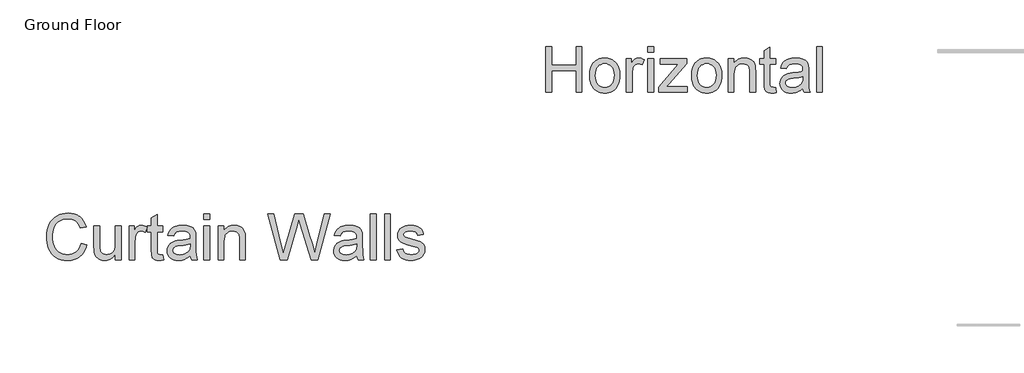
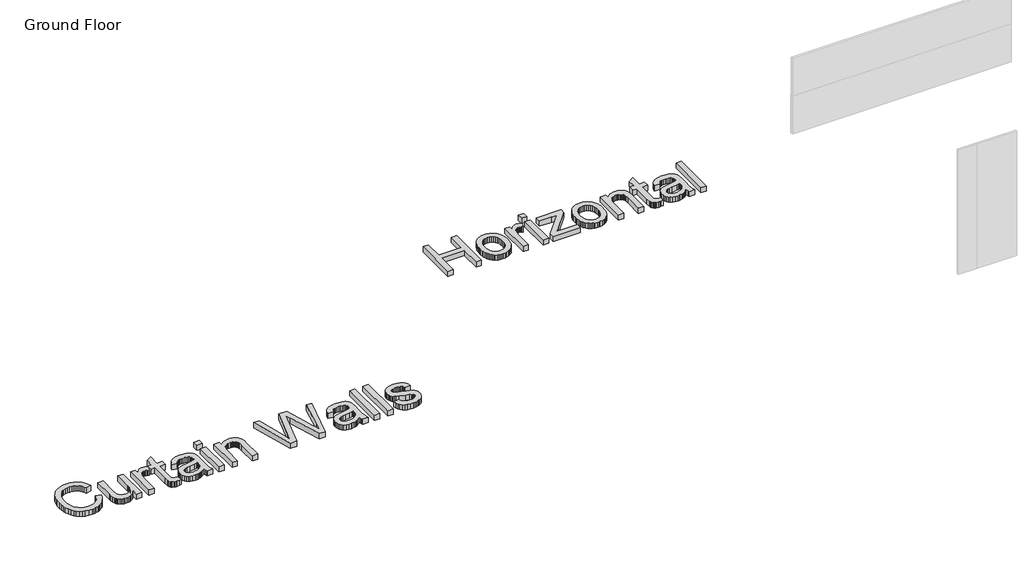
# One storey, part 5 of 8: 2 proxies.
"""IFC4 building model written with IfcOpenShell, lengths in millimetres."""

from ifc_helpers import new_model, si_unit, origin, origin_with_axes, place, context, project, spatial, polyline, outline, extrude, element, save

model = new_model("IFC4")

# Units and contexts
model_context = context("Model", 3, world=origin())
ifc_project = project(units=[si_unit("LENGTHUNIT", "METRE", prefix="MILLI")], contexts=[model_context])

# Site, building, storey
site = spatial("IfcSite", under=ifc_project)
building = spatial("IfcBuilding", under=site)
storey = spatial("IfcBuildingStorey", under=building, Name="Ground Floor", Elevation=0.0)

# Proxies
placement = place(None, origin())
element("IfcBuildingElementProxy", 1, Name="1200mm Arial", ObjectType="1200mm Arial", at=placement, inside=storey, context=model_context, shape_type="SweptSolid", body=[
    extrude(outline(polyline([(-73405.7068137, -17.5087086), (-73258.7977228, -55.3837086), (-73287.8675026, -146.7445929), (-73306.0204234, -188.1008828), (-73326.5853648, -226.5744047), (-73349.5623268, -262.1651584), (-73374.9513094, -294.873144), (-73402.7523126, -324.6983615), (-73432.9653364, -351.6408109), (-73465.2630992, -375.5480597), (-73499.3183194, -396.2676753), (-73535.1309969, -413.7996577), (-73572.7011319, -428.1440069), (-73612.0287242, -439.300723), (-73653.1137739, -447.2698059), (-73695.956281, -452.0512557), (-73740.5562455, -453.6450723), (-73830.1417391, -448.8210311), (-73910.9578791, -434.3489075), (-73983.0046653, -410.2287015), (-74046.2820978, -376.4604132), (-74101.6599387, -333.5461731), (-74150.0079501, -281.988112), (-74191.3261319, -221.7862299), (-74225.6144842, -152.9405268), (-74252.541242, -78.4279203), (-74271.7746404, -1.225328), (-74283.3146795, 78.6672502), (-74287.1613592, 161.2498141), (-74282.8125488, 249.8579462), (-74269.7661177, 332.6198425), (-74248.0220658, 409.535503), (-74217.5803933, 480.6049277), (-74179.122563, 544.6534895), (-74133.3300381, 600.5065612), (-74080.2028187, 648.1641429), (-74019.7409046, 687.6262345), (-73953.9976518, 718.5700378), (-73885.026416, 740.6727544), (-73812.8271972, 753.9343844), (-73737.3999955, 758.3549277), (-73653.3738059, 752.6342246), (-73576.3236461, 735.4721152), (-73540.4145774, 722.6005332), (-73506.2495161, 706.8685996), (-73473.8284623, 688.2763144), (-73443.151416, 666.8236777), (-73414.4784091, 642.7752047), (-73388.0694735, 616.3954107), (-73363.9246093, 587.6842956), (-73342.0438166, 556.6418595), (-73305.0744451, 487.5630243), (-73277.1613592, 409.158905), (-73424.0704501, 374.1532232), (-73447.2043279, 431.9251514), (-73475.0008478, 481.2863908), (-73507.4600097, 522.2369412), (-73544.5818137, 554.7768027), (-73586.5814586, 579.5695051), (-73633.6741433, 597.2785783), (-73685.8598677, 607.9040222), (-73743.1386319, 611.4458368), (-73809.0432839, 607.5184576), (-73869.3168989, 595.7363198), (-73923.9594771, 576.0994235), (-73972.9710183, 548.6077686), (-74015.7328258, 514.4987487), (-74051.6262029, 475.0097573), (-74080.6511496, 430.1407942), (-74102.807666, 379.8918595), (-74119.1896795, 326.5404746), (-74130.8911177, 272.3641607), (-74137.9119806, 217.3629178), (-74140.2522683, 161.5367459), (-74137.4815829, 91.3819164), (-74129.1695268, 25.8179959), (-74115.3160999, -35.1550155), (-74095.9213023, -91.5371177), (-74070.6713023, -142.2074835), (-74039.2522683, -186.0452853), (-74001.6642001, -223.0505233), (-73957.9070978, -253.2231973), (-73910.1060502, -276.6350403), (-73860.3861461, -293.3577853), (-73808.7473854, -303.3914324), (-73755.1897683, -306.7359814), (-73691.3205389, -302.1809388), (-73632.5622825, -288.5158109), (-73578.9149991, -265.7405978), (-73530.3786887, -233.8552995), (-73488.1010786, -193.0033819), (-73453.2298961, -143.3283109), (-73425.7651411, -84.8300865), (-73405.7068137, -17.5087086)])), origin_with_axes(), (0.0, 0.0, 1.0), 150.0),
    extrude(outline(polyline([(-72524.2522683, -435.2814359), (-72524.2522683, -286.9376859), (-72549.7354004, -326.0097296), (-72577.4063876, -359.8721674), (-72607.2652299, -388.5249995), (-72639.3119273, -411.9682257), (-72673.5464799, -430.2018461), (-72709.9688876, -443.2258606), (-72748.5791504, -451.0402694), (-72789.3772683, -453.6450723), (-72825.7727761, -451.8158819), (-72860.9308904, -446.3283109), (-72894.8516113, -437.1823592), (-72927.5349387, -424.3780268), (-72957.5372469, -408.8119757), (-72983.4149103, -391.3808677), (-73005.1679288, -372.084703), (-73022.7963023, -350.9234814), (-73037.2056596, -327.5923379), (-73049.3016291, -301.7864075), (-73066.5534046, -242.7501859), (-73073.0093705, -187.0854132), (-73075.1613592, -106.1706405), (-73075.1613592, 427.8094732), (-72928.2522683, 427.8094732), (-72928.2522683, -37.0200723), (-72926.0285467, -129.9859814), (-72919.3573819, -186.7984814), (-72910.5611283, -213.2769082), (-72897.945095, -236.7604842), (-72881.5092817, -257.2492093), (-72861.2536887, -274.7430836), (-72837.788046, -288.7399764), (-72811.7220836, -298.7377569), (-72783.0558016, -304.7364253), (-72751.7892001, -306.7359814), (-72719.5900701, -304.6915922), (-72688.4131347, -298.5584245), (-72658.258394, -288.3364785), (-72629.1258478, -274.0257541), (-72602.5936212, -256.1911483), (-72580.2398393, -235.3975581), (-72562.0645019, -211.6449835), (-72548.0676092, -184.9334245), (-72537.6483975, -153.5592236), (-72530.2061035, -115.8187228), (-72525.7407271, -71.7119224), (-72524.2522683, -21.2388223), (-72524.2522683, 427.8094732), (-72377.3431773, 427.8094732), (-72377.3431773, -435.2814359), (-72524.2522683, -435.2814359)])), origin_with_axes(), (0.0, 0.0, 1.0), 150.0),
    extrude(outline(polyline([(-72175.3431773, -435.2814359), (-72175.3431773, 427.8094732), (-72046.7977228, 427.8094732), (-72046.7977228, 300.1248141), (-72022.5878506, 340.9408652), (-71999.3105069, 374.1532232), (-71976.9656916, 399.761888), (-71955.5534046, 417.7668595), (-71934.1052512, 430.1945939), (-71911.6528364, 439.071547), (-71888.1961603, 444.3977189), (-71863.7352228, 446.1731095), (-71827.2948819, 443.3396578), (-71790.5676092, 434.8393027), (-71753.5534046, 420.6720442), (-71716.2522683, 400.8378823), (-71765.3176092, 269.1361777), (-71791.1414728, 282.3171081), (-71816.9653364, 291.7320584), (-71842.7892001, 297.3810286), (-71868.6130637, 299.2640186), (-71891.1282448, 297.4527615), (-71912.4777654, 292.0189902), (-71932.6616255, 282.9627047), (-71951.6798251, 270.283905), (-71968.8150346, 254.3950556), (-71983.3499245, 235.7086209), (-71995.2844948, 214.224601), (-72004.6187455, 189.9429959), (-72015.0379572, 149.8442743), (-72022.4802512, 107.8804959), (-72028.4340864, 18.3577686), (-72028.4340864, -435.2814359), (-72175.3431773, -435.2814359)])), origin_with_axes(), (0.0, 0.0, 1.0), 150.0),
    extrude(outline(polyline([(-71312.2522683, -312.7615495), (-71293.8886319, -439.5854132), (-71352.064058, -450.1301575), (-71403.7835183, -453.6450723), (-71441.2819202, -452.120747), (-71474.2970126, -447.5477711), (-71502.8287952, -439.9261447), (-71526.8772683, -429.2558677), (-71547.070095, -416.1108038), (-71564.0349387, -401.0648166), (-71577.7717995, -384.1179061), (-71588.2806773, -365.2700723), (-71596.0637029, -340.002139), (-71601.6230069, -303.7949302), (-71606.0704501, -198.5626859), (-71606.0704501, 280.9003823), (-71716.2522683, 280.9003823), (-71716.2522683, 427.8094732), (-71606.0704501, 427.8094732), (-71606.0704501, 637.5566323), (-71459.1613592, 723.9231095), (-71459.1613592, 427.8094732), (-71312.2522683, 427.8094732), (-71312.2522683, 280.9003823), (-71459.1613592, 280.9003823), (-71459.1613592, -194.2587086), (-71457.2245694, -242.60672), (-71451.4142001, -270.0087086), (-71441.263987, -285.1802285), (-71426.307666, -296.8368336), (-71405.1105779, -304.2611944), (-71376.2380637, -306.7359814), (-71312.2522683, -312.7615495)])), origin_with_axes(), (0.0, 0.0, 1.0), 150.0),
    extrude(outline(polyline([(-70614.4340864, -325.0996177), (-70649.2694025, -357.7919118), (-70684.6247825, -385.2835666), (-70720.5002264, -407.5745822), (-70756.8957342, -424.6649586), (-70794.2237704, -437.3437584), (-70832.8967995, -446.4000439), (-70872.9148215, -451.8338152), (-70914.2778364, -453.6450723), (-70979.6893244, -449.2872953), (-71037.0487881, -436.2139643), (-71086.3562278, -414.4250794), (-71127.6116433, -383.9206405), (-71160.1873712, -346.6374373), (-71183.4557484, -304.5122598), (-71197.4167746, -257.5451078), (-71202.0704501, -205.7359814), (-71200.3129927, -174.5859459), (-71195.0406205, -144.834703), (-71186.2533336, -116.4822527), (-71173.9511319, -89.528595), (-71158.7885786, -64.5655268), (-71141.420237, -42.184845), (-71121.846107, -22.3865495), (-71100.0661887, -5.1706405), (-71051.467112, 22.8052118), (-70997.2011319, 43.033905), (-70944.3339444, 54.2959789), (-70870.0903364, 65.127655), (-70719.8815296, 88.3691323), (-70661.8854359, 101.496263), (-70615.2948819, 115.627655), (-70614.4340864, 148.3378823), (-70616.9626731, 183.9532942), (-70624.548433, 213.9018027), (-70637.1913663, 238.1834078), (-70654.8914728, 256.7981095), (-70685.4855779, 275.3769448), (-70722.7508478, 288.6475414), (-70766.6872825, 296.6098993), (-70817.2948819, 299.2640186), (-70864.3517001, 297.4975946), (-70904.8090864, 292.1983226), (-70938.667041, 283.3662026), (-70965.9255637, 271.0012345), (-70988.3241788, 254.1350236), (-71007.6024103, 231.7991749), (-71023.7602583, 203.9936884), (-71036.7977228, 170.7185641), (-71183.7068137, 189.0822005), (-71172.5254394, 231.4046436), (-71158.2057484, 269.4231095), (-71140.7477406, 303.1375982), (-71120.151416, 332.5481095), (-71095.5290793, 358.2464405), (-71065.9930353, 380.824388), (-71031.5432839, 400.2819519), (-70992.1798251, 416.6191323), (-70948.700688, 429.5489973), (-70901.9039018, 438.7846152), (-70851.7894664, 444.325986), (-70798.3573819, 446.1731095), (-70746.1268244, 444.5411848), (-70699.0431063, 439.6454107), (-70657.1062278, 431.4857871), (-70620.3161887, 420.0623141), (-70588.3681241, 406.1730208), (-70560.9571688, 390.6159362), (-70538.0833229, 373.3910605), (-70519.7465864, 354.4983936), (-70504.8799316, 333.4716713), (-70492.4163308, 309.8446294), (-70474.698291, 254.7895868), (-70469.3183194, 204.002655), (-70467.5249955, 126.2441323), (-70467.5249955, -56.5314359), (-70465.6599387, -215.7427285), (-70460.0647683, -311.7572882), (-70449.0178933, -374.8464217), (-70430.7977228, -435.2814359), (-70577.7068137, -435.2814359), (-70590.7622114, -410.7487655), (-70601.2352228, -384.2075723), (-70614.4340864, -325.0996177)]), holes=[polyline([(-70614.4340864, -31.2814359), (-70658.8367853, -43.9961021), (-70713.1386319, -55.7423734), (-70851.4397683, -76.3297314), (-70927.6560325, -87.5918052), (-70977.8332342, -100.1450723), (-71010.7227938, -116.428453), (-71035.0761319, -138.8808677), (-71050.1400523, -165.7807257), (-71055.1613592, -195.4064359), (-71052.4265403, -218.2354487), (-71044.2220836, -239.0918052), (-71030.5479891, -257.9755055), (-71011.4042569, -274.8865495), (-70986.9702192, -288.820676), (-70957.4252086, -298.7736234), (-70922.7692249, -304.7453919), (-70883.0022683, -306.7359814), (-70842.401416, -304.5391596), (-70804.0960183, -297.9486944), (-70768.0860751, -286.9645858), (-70734.3715864, -271.5868336), (-70703.9568137, -253.088698), (-70677.8460183, -232.7434388), (-70656.0392001, -210.5510559), (-70638.5363592, -186.5115495), (-70628.3682129, -164.9916632), (-70621.1052512, -138.8808677), (-70616.7474742, -108.1791632), (-70615.2948819, -72.8865495), (-70614.4340864, -31.2814359)])]), origin_with_axes(), (0.0, 0.0, 1.0), 150.0),
    extrude(outline(polyline([(-70265.5249955, -435.2814359), (-70265.5249955, 427.8094732), (-70118.6159046, 427.8094732), (-70118.6159046, -435.2814359), (-70265.5249955, -435.2814359)])), origin_with_axes(), (0.0, 0.0, 1.0), 150.0),
    extrude(outline(polyline([(-70265.5249955, 593.0822005), (-70265.5249955, 739.9912914), (-70118.6159046, 739.9912914), (-70118.6159046, 593.0822005), (-70265.5249955, 593.0822005)])), origin_with_axes(), (0.0, 0.0, 1.0), 150.0),
    extrude(outline(polyline([(-69898.2522683, -435.2814359), (-69898.2522683, 427.8094732), (-69751.3431773, 427.8094732), (-69751.3431773, 307.2981095), (-69727.1064053, 339.8469377), (-69700.3051802, 368.055922), (-69670.9395019, 391.9250627), (-69639.0093705, 411.4543595), (-69604.514786, 426.6438127), (-69567.4557484, 437.493422), (-69527.8322576, 444.0031877), (-69485.6443137, 446.1731095), (-69448.6749423, 444.4246188), (-69413.2298961, 439.1791465), (-69379.3091752, 430.4366926), (-69346.9127796, 418.1972573), (-69317.2691362, 403.1154036), (-69291.6066717, 385.8456948), (-69269.9253862, 366.3881309), (-69252.2252796, 344.7427118), (-69225.5047541, 294.9959078), (-69208.1812455, 236.7128823), (-69202.3708762, 180.9763766), (-69200.4340864, 94.6816323), (-69200.4340864, -435.2814359), (-69347.3431773, -435.2814359), (-69347.3431773, 74.8833368), (-69351.5754217, 150.8485357), (-69356.8657271, 180.5997786), (-69364.2721546, 204.8634505), (-69374.3596014, 225.2983759), (-69387.6929643, 243.5633794), (-69404.2722434, 259.6584611), (-69424.0974387, 273.5836209), (-69446.4870871, 284.8187949), (-69470.7597256, 292.8439192), (-69496.9153542, 297.6589938), (-69524.9539728, 299.2640186), (-69569.5629039, 295.6594377), (-69610.9976518, 284.8456948), (-69649.2582164, 266.8227899), (-69684.3445978, 241.5907232), (-69700.0473899, 225.5539245), (-69713.6564764, 206.2801763), (-69725.1718572, 183.7694785), (-69734.5935325, 158.0218311), (-69747.1557661, 96.8156877), (-69751.3431773, 22.6617459), (-69751.3431773, -435.2814359), (-69898.2522683, -435.2814359)])), origin_with_axes(), (0.0, 0.0, 1.0), 150.0),
    extrude(outline(polyline([(-68310.6585183, -435.2814359), (-68631.1613592, 739.9912914), (-68479.6613592, 739.9912914), (-68293.729541, -32.4291632), (-68236.3431773, -270.8695041), (-68174.9397683, -59.9746177), (-67941.9511319, 739.9912914), (-67723.5960183, 739.9912914), (-67554.3062455, 160.1020868), (-67515.6601163, 52.574388), (-67481.7842285, -55.0967768), (-67452.6785822, -162.9114075), (-67428.3431773, -270.8695041), (-67372.6784046, -39.3155268), (-67185.0249955, 739.9912914), (-67033.5249955, 739.9912914), (-67354.3147683, -435.2814359), (-67511.2664728, -435.2814359), (-67793.0335183, 471.4231095), (-67832.3431773, 597.9600414), (-67876.5306773, 445.5992459), (-68133.3346546, -435.2814359), (-68310.6585183, -435.2814359)])), origin_with_axes(), (0.0, 0.0, 1.0), 150.0),
    extrude(outline(polyline([(-66354.0704501, -325.0996177), (-66388.9057661, -357.7919118), (-66424.2611461, -385.2835666), (-66460.13659, -407.5745822), (-66496.5320978, -424.6649586), (-66533.860134, -437.3437584), (-66572.5331631, -446.4000439), (-66612.5511852, -451.8338152), (-66653.9142001, -453.6450723), (-66719.325688, -449.2872953), (-66776.6851518, -436.2139643), (-66825.9925914, -414.4250794), (-66867.2480069, -383.9206405), (-66899.8237349, -346.6374373), (-66923.092112, -304.5122598), (-66937.0531383, -257.5451078), (-66941.7068137, -205.7359814), (-66939.9493563, -174.5859459), (-66934.6769842, -144.834703), (-66925.8896972, -116.4822527), (-66913.5874955, -89.528595), (-66898.4249423, -64.5655268), (-66881.0566006, -42.184845), (-66861.4824707, -22.3865495), (-66839.7025523, -5.1706405), (-66791.1034756, 22.8052118), (-66736.8374955, 43.033905), (-66683.970308, 54.2959789), (-66609.7267001, 65.127655), (-66459.5178933, 88.3691323), (-66401.5217995, 101.496263), (-66354.9312455, 115.627655), (-66354.0704501, 148.3378823), (-66356.5990367, 183.9532942), (-66364.1847967, 213.9018027), (-66376.8277299, 238.1834078), (-66394.5278364, 256.7981095), (-66425.1219416, 275.3769448), (-66462.3872114, 288.6475414), (-66506.3236461, 296.6098993), (-66556.9312455, 299.2640186), (-66603.9880637, 297.4975946), (-66644.4454501, 292.1983226), (-66678.3034046, 283.3662026), (-66705.5619273, 271.0012345), (-66727.9605424, 254.1350236), (-66747.2387739, 231.7991749), (-66763.3966219, 203.9936884), (-66776.4340864, 170.7185641), (-66923.3431773, 189.0822005), (-66912.1618031, 231.4046436), (-66897.842112, 269.4231095), (-66880.3841042, 303.1375982), (-66859.7877796, 332.5481095), (-66835.165443, 358.2464405), (-66805.6293989, 380.824388), (-66771.1796475, 400.2819519), (-66731.8161887, 416.6191323), (-66688.3370516, 429.5489973), (-66641.5402654, 438.7846152), (-66591.42583, 444.325986), (-66537.9937455, 446.1731095), (-66485.763188, 444.5411848), (-66438.67947, 439.6454107), (-66396.7425914, 431.4857871), (-66359.9525523, 420.0623141), (-66328.0044877, 406.1730208), (-66300.5935325, 390.6159362), (-66277.7196866, 373.3910605), (-66259.3829501, 354.4983936), (-66244.5162952, 333.4716713), (-66232.0526944, 309.8446294), (-66214.3346546, 254.7895868), (-66208.954683, 204.002655), (-66207.1613592, 126.2441323), (-66207.1613592, -56.5314359), (-66205.2963023, -215.7427285), (-66199.7011319, -311.7572882), (-66188.6542569, -374.8464217), (-66170.4340864, -435.2814359), (-66317.3431773, -435.2814359), (-66330.3985751, -410.7487655), (-66340.8715864, -384.2075723), (-66354.0704501, -325.0996177)]), holes=[polyline([(-66354.0704501, -31.2814359), (-66398.4731489, -43.9961021), (-66452.7749955, -55.7423734), (-66591.0761319, -76.3297314), (-66667.2923961, -87.5918052), (-66717.4695978, -100.1450723), (-66750.3591575, -116.428453), (-66774.7124955, -138.8808677), (-66789.776416, -165.7807257), (-66794.7977228, -195.4064359), (-66792.0629039, -218.2354487), (-66783.8584472, -239.0918052), (-66770.1843528, -257.9755055), (-66751.0406205, -274.8865495), (-66726.6065829, -288.820676), (-66697.0615722, -298.7736234), (-66662.4055886, -304.7453919), (-66622.6386319, -306.7359814), (-66582.0377796, -304.5391596), (-66543.7323819, -297.9486944), (-66507.7224387, -286.9645858), (-66474.0079501, -271.5868336), (-66443.5931773, -253.088698), (-66417.4823819, -232.7434388), (-66395.6755637, -210.5510559), (-66378.1727228, -186.5115495), (-66368.0045765, -164.9916632), (-66360.7416148, -138.8808677), (-66356.3838379, -108.1791632), (-66354.9312455, -72.8865495), (-66354.0704501, -31.2814359)])]), origin_with_axes(), (0.0, 0.0, 1.0), 150.0),
    extrude(outline(polyline([(-66005.1613592, -435.2814359), (-66005.1613592, 739.9912914), (-65858.2522683, 739.9912914), (-65858.2522683, -435.2814359), (-66005.1613592, -435.2814359)])), origin_with_axes(), (0.0, 0.0, 1.0), 150.0),
    extrude(outline(polyline([(-65637.8886319, -435.2814359), (-65637.8886319, 739.9912914), (-65490.979541, 739.9912914), (-65490.979541, -435.2814359), (-65637.8886319, -435.2814359)])), origin_with_axes(), (0.0, 0.0, 1.0), 150.0),
    extrude(outline(polyline([(-65325.7068137, -178.1905268), (-65178.7977228, -159.8268905), (-65169.9207697, -193.3261802), (-65155.6279785, -222.6649586), (-65135.9193492, -247.8432257), (-65110.7948819, -268.8609814), (-65080.1828435, -285.4312939), (-65044.0115012, -297.2672314), (-65002.2808549, -304.3687939), (-64954.9909046, -306.7359814), (-64907.7547541, -304.5660595), (-64867.0463023, -298.0562939), (-64832.8655495, -287.2066845), (-64805.2124955, -272.0172314), (-64783.8719416, -253.9046603), (-64768.6286887, -234.2856973), (-64759.482737, -213.1603422), (-64756.4340864, -190.528595), (-64759.5006702, -170.6944331), (-64768.7004217, -153.0839927), (-64784.0333407, -137.697274), (-64805.4994273, -124.5342768), (-64860.5186035, -105.8837086), (-64956.7124955, -82.6422314), (-65090.7813876, -43.8705694), (-65177.9369273, -10.7658109), (-65207.858536, 5.8314014), (-65233.9244984, 25.3517317), (-65256.1348144, 47.7951799), (-65274.4894842, 73.1617459), (-65288.8629749, 100.6892672), (-65299.1297541, 129.6155811), (-65305.2898215, 159.9406877), (-65307.3431773, 191.6645868), (-65305.6933194, 220.6716003), (-65300.7437455, 248.5846862), (-65292.4944558, 275.4038446), (-65280.9454501, 301.1290755), (-65266.5450594, 325.2403148), (-65249.7416148, 347.2174987), (-65230.5351163, 367.0606273), (-65208.9255637, 384.7697005), (-65168.3605779, 408.405709), (-65115.5292569, 428.2398709), (-65054.4486461, 441.6897999), (-64989.135791, 446.1731095), (-64939.765585, 444.3708191), (-64893.5157626, 438.9639476), (-64850.3863237, 429.9524952), (-64810.3772683, 417.3364618), (-64774.439058, 401.644878), (-64743.5221546, 383.4067743), (-64717.626558, 362.6221507), (-64696.7522683, 339.2910073), (-64679.823291, 312.5973816), (-64665.7636319, 281.7253112), (-64654.573291, 246.6747963), (-64646.2522683, 207.4458368), (-64793.1613592, 189.0822005), (-64800.1642889, 213.6238375), (-64811.7043279, 235.3140897), (-64827.7814764, 254.1529568), (-64848.3957342, 270.1404391), (-64873.6367675, 282.8820051), (-64903.5942427, 291.9831237), (-64938.2681596, 297.4437949), (-64977.6585183, 299.2640186), (-65023.3524103, 297.5244945), (-65062.0164728, 292.305922), (-65093.6507058, 283.6083013), (-65118.2551092, 271.4316323), (-65136.7084117, 256.9415755), (-65149.8893421, 241.3037914), (-65157.7979004, 224.51828), (-65160.4340864, 206.5850414), (-65156.0583762, 183.9891607), (-65142.9312455, 163.8322005), (-65120.4788308, 145.8272289), (-65088.1272683, 131.408905), (-64961.5903364, 100.1333368), (-64831.7895552, 61.7562061), (-64745.9610751, 30.9827686), (-64715.7615012, 15.9726479), (-64689.0051092, -2.0861234), (-64665.6918989, -23.1935453), (-64645.8218705, -47.3496177), (-64629.9419877, -74.5902072), (-64618.5992143, -104.9511802), (-64611.7935502, -138.4325368), (-64609.5249955, -175.0342768), (-64612.1880815, -211.797416), (-64620.1773393, -247.4845609), (-64633.492769, -282.0957115), (-64652.1343705, -315.6308677), (-64675.7972789, -346.7540034), (-64704.1766291, -374.1290922), (-64737.272421, -397.7561341), (-64775.0846546, -417.6351291), (-64816.5821688, -433.3894792), (-64860.7338023, -444.6425865), (-64907.5395552, -451.3944508), (-64956.9994273, -453.6450723), (-65036.0670765, -449.3052285), (-65105.1279785, -436.2856973), (-65164.1821333, -414.5864785), (-65213.229541, -384.2075723), (-65253.2923961, -345.2924444), (-65285.3928933, -297.9845609), (-65309.5310325, -242.2839217), (-65325.7068137, -178.1905268)])), origin_with_axes(), (0.0, 0.0, 1.0), 150.0),
])
element("IfcBuildingElementProxy", 2, Name="1200mm Arial", ObjectType="1200mm Arial", at=placement, inside=storey, context=model_context, shape_type="SweptSolid", body=[
    extrude(outline(polyline([(-61516.4411736, 3850.5609939), (-61516.4411736, 5025.8337212), (-61369.5320827, 5025.8337212), (-61369.5320827, 4548.3791757), (-60745.1684463, 4548.3791757), (-60745.1684463, 5025.8337212), (-60598.2593554, 5025.8337212), (-60598.2593554, 3850.5609939), (-60745.1684463, 3850.5609939), (-60745.1684463, 4401.4700848), (-61369.5320827, 4401.4700848), (-61369.5320827, 3850.5609939), (-61516.4411736, 3850.5609939)])), origin_with_axes(), (0.0, 0.0, 1.0), 150.0),
    extrude(outline(polyline([(-60396.2593554, 4282.1064484), (-60394.2732492, 4339.9276931), (-60388.3149307, 4393.8843249), (-60378.3843998, 4443.9763437), (-60364.4816565, 4490.2037496), (-60346.6067009, 4532.5665425), (-60324.7595329, 4571.0647226), (-60298.9401526, 4605.6982897), (-60269.1485599, 4636.4672439), (-60241.8810706, 4658.8613756), (-60213.1609889, 4678.2696231), (-60182.9883149, 4694.6919864), (-60151.3630486, 4708.1284655), (-60118.2851899, 4718.5790603), (-60083.7547389, 4726.0437709), (-60010.3360599, 4732.0155393), (-59968.8407874, 4730.1975573), (-59929.2867879, 4724.7436111), (-59891.6740615, 4715.6537007), (-59856.0026082, 4702.9278263), (-59822.272428, 4686.5659877), (-59790.4835209, 4666.5681849), (-59760.6358868, 4642.9344181), (-59732.7295258, 4615.6646871), (-59707.4772842, 4585.1893897), (-59685.5920081, 4551.9389236), (-59667.0736975, 4515.9132888), (-59651.9223525, 4477.1124854), (-59640.1379731, 4435.5365132), (-59631.7205592, 4391.1853724), (-59626.6701109, 4344.059063), (-59624.9866281, 4294.1575848), (-59627.9635457, 4215.5203334), (-59636.8942986, 4145.7421018), (-59651.7788866, 4084.8228902), (-59672.6173099, 4032.7626984), (-59699.1495365, 3987.7951026), (-59731.1155344, 3948.1536785), (-59768.5153035, 3913.8384264), (-59811.348844, 3884.8493462), (-59857.9483646, 3861.8141011), (-59906.6460741, 3845.3603547), (-59957.4419726, 3835.4881068), (-60010.3360599, 3832.1973575), (-60052.4858957, 3834.0086146), (-60092.5689257, 3839.4423859), (-60130.5851499, 3848.4986714), (-60166.5345684, 3861.1774712), (-60200.4171812, 3877.4787851), (-60232.2329882, 3897.4026132), (-60261.9819894, 3920.9489555), (-60289.6641849, 3948.1178121), (-60314.647428, 3978.6939839), (-60336.299572, 4012.4622723), (-60354.6206169, 4049.4226771), (-60369.6105628, 4089.5751984), (-60381.2694095, 4132.9198362), (-60389.5971572, 4179.4565905), (-60394.5938058, 4229.1854612), (-60396.2593554, 4282.1064484)]), holes=[polyline([(-60249.3502645, 4282.3933802), (-60245.1000869, 4211.1356565), (-60232.3495542, 4149.436349), (-60211.0986665, 4097.2954577), (-60181.3474236, 4054.7129825), (-60145.158148, 4021.6351239), (-60104.5931622, 3998.008082), (-60059.6524662, 3983.8318568), (-60010.3360599, 3979.1064484), (-59961.270719, 3983.8587567), (-59916.5093554, 3998.1156814), (-59876.051969, 4021.8772226), (-59839.8985599, 4055.1433802), (-59810.147317, 4098.1472865), (-59788.8964292, 4151.1220734), (-59776.1458966, 4214.067741), (-59771.895719, 4286.9842893), (-59776.1727964, 4355.982425), (-59789.0040287, 4416.067741), (-59810.3894157, 4467.2402375), (-59840.3289577, 4509.4999143), (-59876.616866, 4542.577773), (-59917.0473525, 4566.2048149), (-59961.6204172, 4580.3810401), (-60010.3360599, 4585.1064484), (-60059.6524662, 4580.3989733), (-60104.5931622, 4566.2765479), (-60145.158148, 4542.7391722), (-60181.3474236, 4509.7868462), (-60211.0986665, 4467.3299037), (-60232.3495542, 4415.2786785), (-60245.1000869, 4353.6331707), (-60249.3502645, 4282.3933802)])]), origin_with_axes(), (0.0, 0.0, 1.0), 150.0),
    extrude(outline(polyline([(-59459.7139008, 3850.5609939), (-59459.7139008, 4713.651903), (-59331.1684463, 4713.651903), (-59331.1684463, 4585.9672439), (-59306.9585741, 4626.783295), (-59283.6812304, 4659.995653), (-59261.336415, 4685.6043177), (-59239.9241281, 4703.6092893), (-59218.4759747, 4716.0370237), (-59196.0235599, 4724.9139768), (-59172.5668838, 4730.2401487), (-59148.1059463, 4732.0155393), (-59111.6656054, 4729.1820876), (-59074.9383327, 4720.6817325), (-59037.9241281, 4706.514474), (-59000.6229917, 4686.6803121), (-59049.6883327, 4554.9786075), (-59075.5121963, 4568.1595379), (-59101.3360599, 4577.5744882), (-59127.1599236, 4583.2234584), (-59152.9837872, 4585.1064484), (-59175.4989683, 4583.2951913), (-59196.8484889, 4577.86142), (-59217.032349, 4568.8051345), (-59236.0505486, 4556.1263348), (-59253.1857581, 4540.2374854), (-59267.720648, 4521.5510507), (-59279.6552183, 4500.0670308), (-59288.989469, 4475.7854257), (-59299.4086807, 4435.6867041), (-59306.8509747, 4393.7229257), (-59312.8048099, 4304.2001984), (-59312.8048099, 3850.5609939), (-59459.7139008, 3850.5609939)])), origin_with_axes(), (0.0, 0.0, 1.0), 150.0),
    extrude(outline(polyline([(-58908.8048099, 4878.9246302), (-58908.8048099, 5025.8337212), (-58761.895719, 5025.8337212), (-58761.895719, 4878.9246302), (-58908.8048099, 4878.9246302)])), origin_with_axes(), (0.0, 0.0, 1.0), 150.0),
    extrude(outline(polyline([(-58908.8048099, 3850.5609939), (-58908.8048099, 4713.651903), (-58761.895719, 4713.651903), (-58761.895719, 3850.5609939), (-58908.8048099, 3850.5609939)])), origin_with_axes(), (0.0, 0.0, 1.0), 150.0),
    extrude(outline(polyline([(-58633.3502645, 3850.5609939), (-58633.3502645, 3988.8621302), (-58126.3417417, 4566.7428121), (-58276.4070827, 4566.7428121), (-58596.6229917, 4566.7428121), (-58596.6229917, 4713.651903), (-57917.1684463, 4713.651903), (-57917.1684463, 4588.8365621), (-58366.7906054, 4076.089403), (-58435.6542417, 3997.4700848), (-58265.7906054, 3997.4700848), (-57898.8048099, 3997.4700848), (-57898.8048099, 3850.5609939), (-58633.3502645, 3850.5609939)])), origin_with_axes(), (0.0, 0.0, 1.0), 150.0),
    extrude(outline(polyline([(-57788.6229917, 4282.1064484), (-57786.6368856, 4339.9276931), (-57780.678567, 4393.8843249), (-57770.7480361, 4443.9763437), (-57756.8452929, 4490.2037496), (-57738.9703373, 4532.5665425), (-57717.1231693, 4571.0647226), (-57691.303789, 4605.6982897), (-57661.5121963, 4636.4672439), (-57634.2447069, 4658.8613756), (-57605.5246253, 4678.2696231), (-57575.3519513, 4694.6919864), (-57543.7266849, 4708.1284655), (-57510.6488263, 4718.5790603), (-57476.1183753, 4726.0437709), (-57402.6996963, 4732.0155393), (-57361.2044237, 4730.1975573), (-57321.6504243, 4724.7436111), (-57284.0376979, 4715.6537007), (-57248.3662446, 4702.9278263), (-57214.6360644, 4686.5659877), (-57182.8471572, 4666.5681849), (-57152.9995232, 4642.9344181), (-57125.0931622, 4615.6646871), (-57099.8409205, 4585.1893897), (-57077.9556444, 4551.9389236), (-57059.4373339, 4515.9132888), (-57044.2859889, 4477.1124854), (-57032.5016095, 4435.5365132), (-57024.0841956, 4391.1853724), (-57019.0337472, 4344.059063), (-57017.3502645, 4294.1575848), (-57020.3271821, 4215.5203334), (-57029.2579349, 4145.7421018), (-57044.142523, 4084.8228902), (-57064.9809463, 4032.7626984), (-57091.5131728, 3987.7951026), (-57123.4791707, 3948.1536785), (-57160.8789399, 3913.8384264), (-57203.7124804, 3884.8493462), (-57250.312001, 3861.8141011), (-57299.0097105, 3845.3603547), (-57349.8056089, 3835.4881068), (-57402.6996963, 3832.1973575), (-57444.849532, 3834.0086146), (-57484.9325621, 3839.4423859), (-57522.9487863, 3848.4986714), (-57558.8982048, 3861.1774712), (-57592.7808176, 3877.4787851), (-57624.5966246, 3897.4026132), (-57654.3456258, 3920.9489555), (-57682.0278213, 3948.1178121), (-57707.0110644, 3978.6939839), (-57728.6632084, 4012.4622723), (-57746.9842533, 4049.4226771), (-57761.9741991, 4089.5751984), (-57773.6330459, 4132.9198362), (-57781.9607936, 4179.4565905), (-57786.9574422, 4229.1854612), (-57788.6229917, 4282.1064484)]), holes=[polyline([(-57641.7139008, 4282.3933802), (-57637.4637233, 4211.1356565), (-57624.7131906, 4149.436349), (-57603.4623028, 4097.2954577), (-57573.7110599, 4054.7129825), (-57537.5217844, 4021.6351239), (-57496.9567986, 3998.008082), (-57452.0161025, 3983.8318568), (-57402.6996963, 3979.1064484), (-57353.6343554, 3983.8587567), (-57308.8729917, 3998.1156814), (-57268.4156054, 4021.8772226), (-57232.2621963, 4055.1433802), (-57202.5109534, 4098.1472865), (-57181.2600656, 4151.1220734), (-57168.5095329, 4214.067741), (-57164.2593554, 4286.9842893), (-57168.5364328, 4355.982425), (-57181.367665, 4416.067741), (-57202.7530521, 4467.2402375), (-57232.692594, 4509.4999143), (-57268.9805024, 4542.577773), (-57309.4109889, 4566.2048149), (-57353.9840535, 4580.3810401), (-57402.6996963, 4585.1064484), (-57452.0161025, 4580.3989733), (-57496.9567986, 4566.2765479), (-57537.5217844, 4542.7391722), (-57573.7110599, 4509.7868462), (-57603.4623028, 4467.3299037), (-57624.7131906, 4415.2786785), (-57637.4637233, 4353.6331707), (-57641.7139008, 4282.3933802)])]), origin_with_axes(), (0.0, 0.0, 1.0), 150.0),
    extrude(outline(polyline([(-56852.0775372, 3850.5609939), (-56852.0775372, 4713.651903), (-56705.1684463, 4713.651903), (-56705.1684463, 4593.1405393), (-56680.9316743, 4625.6893675), (-56654.1304491, 4653.8983518), (-56624.7647709, 4677.7674925), (-56592.8346395, 4697.2967893), (-56558.340055, 4712.4862425), (-56521.2810173, 4723.3358518), (-56481.6575265, 4729.8456175), (-56439.4695827, 4732.0155393), (-56402.5002112, 4730.2670486), (-56367.055165, 4725.0215763), (-56333.1344442, 4716.2791224), (-56300.7380486, 4704.0396871), (-56271.0944051, 4688.9578334), (-56245.4319406, 4671.6881246), (-56223.7506551, 4652.2305606), (-56206.0505486, 4630.5851416), (-56179.330023, 4580.8383376), (-56162.0065145, 4522.5553121), (-56156.1961452, 4466.8188064), (-56154.2593554, 4380.5240621), (-56154.2593554, 3850.5609939), (-56301.1684463, 3850.5609939), (-56301.1684463, 4360.7257666), (-56305.4006906, 4436.6909655), (-56310.690996, 4466.4422084), (-56318.0974236, 4490.7058802), (-56328.1848703, 4511.1408057), (-56341.5182332, 4529.4058092), (-56358.0975123, 4545.5008909), (-56377.9227077, 4559.4260507), (-56400.3123561, 4570.6612247), (-56424.5849946, 4578.686349), (-56450.7406231, 4583.5014236), (-56478.7792417, 4585.1064484), (-56523.3881728, 4581.5018675), (-56564.8229207, 4570.6881246), (-56603.0834853, 4552.6652197), (-56638.1698667, 4527.433153), (-56653.8726588, 4511.3963543), (-56667.4817453, 4492.1226061), (-56678.9971262, 4469.6119083), (-56688.4188014, 4443.8642609), (-56700.9810351, 4382.6581175), (-56705.1684463, 4308.5041757), (-56705.1684463, 3850.5609939), (-56852.0775372, 3850.5609939)])), origin_with_axes(), (0.0, 0.0, 1.0), 150.0),
    extrude(outline(polyline([(-55640.0775372, 3973.0808802), (-55621.7139008, 3846.2570166), (-55679.889327, 3835.7122723), (-55731.6087872, 3832.1973575), (-55769.1071892, 3833.7216828), (-55802.1222815, 3838.2946587), (-55830.6540642, 3845.9162851), (-55854.7025372, 3856.5865621), (-55874.8953639, 3869.731626), (-55891.8602077, 3884.7776132), (-55905.5970684, 3901.7245237), (-55916.1059463, 3920.5723575), (-55923.8889719, 3945.8402908), (-55929.4482758, 3982.0474996), (-55933.895719, 4087.2797439), (-55933.895719, 4566.7428121), (-56044.0775372, 4566.7428121), (-56044.0775372, 4713.651903), (-55933.895719, 4713.651903), (-55933.895719, 4923.3990621), (-55786.9866281, 5009.7655393), (-55786.9866281, 4713.651903), (-55640.0775372, 4713.651903), (-55640.0775372, 4566.7428121), (-55786.9866281, 4566.7428121), (-55786.9866281, 4091.5837212), (-55785.0498383, 4043.2357098), (-55779.239469, 4015.8337212), (-55769.0892559, 4000.6622013), (-55754.1329349, 3989.0055962), (-55732.9358469, 3981.5812354), (-55704.0633327, 3979.1064484), (-55640.0775372, 3973.0808802)])), origin_with_axes(), (0.0, 0.0, 1.0), 150.0),
    extrude(outline(polyline([(-54942.2593554, 3960.7428121), (-54977.0946714, 3928.050518), (-55012.4500514, 3900.5588632), (-55048.3254953, 3878.2678476), (-55084.7210031, 3861.1774712), (-55122.0490393, 3848.4986714), (-55160.7220684, 3839.4423859), (-55200.7400905, 3834.0086146), (-55242.1031054, 3832.1973575), (-55307.5145933, 3836.5551345), (-55364.8740571, 3849.6284655), (-55414.1814967, 3871.4173504), (-55455.4369122, 3901.9217893), (-55488.0126402, 3939.2049925), (-55511.2810173, 3981.33017), (-55525.2420436, 4028.297322), (-55529.895719, 4080.1064484), (-55528.1382616, 4111.2564839), (-55522.8658895, 4141.0077268), (-55514.0786025, 4169.3601771), (-55501.7764008, 4196.3138348), (-55486.6138476, 4221.276903), (-55469.2455059, 4243.6575848), (-55449.671376, 4263.4558802), (-55427.8914577, 4280.6717893), (-55379.2923809, 4308.6476416), (-55325.0264008, 4328.8763348), (-55272.1592133, 4340.1384087), (-55197.9156054, 4350.9700848), (-55047.7067986, 4374.2115621), (-54989.7107048, 4387.3386927), (-54943.1201508, 4401.4700848), (-54942.2593554, 4434.1803121), (-54944.787942, 4469.795724), (-54952.373702, 4499.7442325), (-54965.0166352, 4524.0258376), (-54982.7167417, 4542.6405393), (-55013.3108469, 4561.2193746), (-55050.5761167, 4574.4899712), (-55094.5125514, 4582.4523291), (-55145.1201508, 4585.1064484), (-55192.176969, 4583.3400244), (-55232.6343554, 4578.0407524), (-55266.4923099, 4569.2086324), (-55293.7508327, 4556.8436643), (-55316.1494477, 4539.9774534), (-55335.4276792, 4517.6416047), (-55351.5855273, 4489.8361182), (-55364.6229917, 4456.5609939), (-55511.5320827, 4474.9246302), (-55500.3507084, 4517.2470734), (-55486.0310173, 4555.2655393), (-55468.5730095, 4588.980028), (-55447.9766849, 4618.3905393), (-55423.3543483, 4644.0888703), (-55393.8183042, 4666.6668177), (-55359.3685528, 4686.1243817), (-55320.005094, 4702.4615621), (-55276.5259569, 4715.3914271), (-55229.7291707, 4724.627045), (-55179.6147353, 4730.1684158), (-55126.1826508, 4732.0155393), (-55073.9520933, 4730.3836146), (-55026.8683753, 4725.4878405), (-54984.9314967, 4717.3282169), (-54948.1414577, 4705.9047439), (-54916.193393, 4692.0154506), (-54888.7824378, 4676.458366), (-54865.9085919, 4659.2334903), (-54847.5718554, 4640.3408234), (-54832.7052005, 4619.3141011), (-54820.2415997, 4595.6870592), (-54802.5235599, 4540.6320166), (-54797.1435883, 4489.8450848), (-54795.3502645, 4412.0865621), (-54795.3502645, 4229.3109939), (-54793.4852077, 4070.0997013), (-54787.8900372, 3974.0851416), (-54776.8431622, 3910.9960081), (-54758.6229917, 3850.5609939), (-54905.5320827, 3850.5609939), (-54918.5874804, 3875.0936643), (-54929.0604917, 3901.6348575), (-54942.2593554, 3960.7428121)]), holes=[polyline([(-54942.2593554, 4254.5609939), (-54986.6620542, 4241.8463277), (-55040.9639008, 4230.1000564), (-55179.2650372, 4209.5126984), (-55255.4813014, 4198.2506246), (-55305.6585031, 4185.6973575), (-55338.5480628, 4169.4139768), (-55362.9014008, 4146.9615621), (-55377.9653213, 4120.0617041), (-55382.9866281, 4090.4359939), (-55380.2518092, 4067.6069811), (-55372.0473525, 4046.7506246), (-55358.3732581, 4027.8669243), (-55339.2295258, 4010.9558802), (-55314.7954882, 3997.0217538), (-55285.2504775, 3987.0688064), (-55250.5944939, 3981.0970379), (-55210.8275372, 3979.1064484), (-55170.2266849, 3981.3032702), (-55131.9212872, 3987.8937354), (-55095.911344, 3998.877844), (-55062.1968554, 4014.2555962), (-55031.7820827, 4032.7537318), (-55005.6712872, 4053.098991), (-54983.864469, 4075.2913739), (-54966.3616281, 4099.3308802), (-54956.1934818, 4120.8507666), (-54948.9305202, 4146.9615621), (-54944.5727432, 4177.6632666), (-54943.1201508, 4212.9558802), (-54942.2593554, 4254.5609939)])]), origin_with_axes(), (0.0, 0.0, 1.0), 150.0),
    extrude(outline(polyline([(-54593.3502645, 3850.5609939), (-54593.3502645, 5025.8337212), (-54446.4411736, 5025.8337212), (-54446.4411736, 3850.5609939), (-54593.3502645, 3850.5609939)])), origin_with_axes(), (0.0, 0.0, 1.0), 150.0),
])

save(model, "model.ifc")
